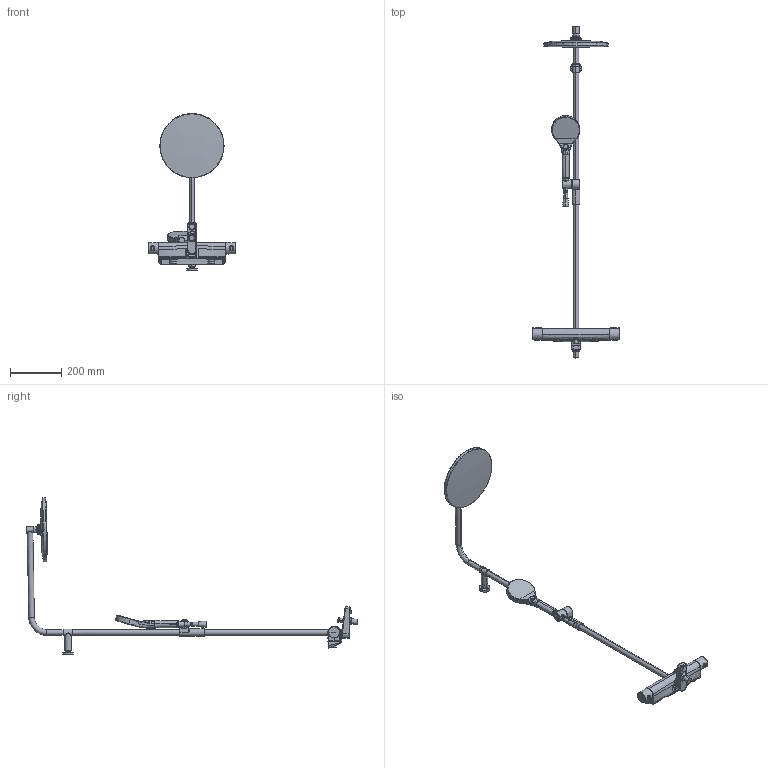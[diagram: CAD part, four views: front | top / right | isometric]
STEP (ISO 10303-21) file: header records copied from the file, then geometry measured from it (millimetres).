
FILE_DESCRIPTION (( 'STEP AP203' ), '1' );
FILE_NAME ('7152N(2023).STEP', '2023-07-18T09:52:52', ( '' ), ( '' ), 'SwSTEP 2.0', 'SolidWorks 2016', '' );
FILE_SCHEMA (( 'CONFIG_CONTROL_DESIGN' ));
Products named in the file (1): 7152N(2023)
Bounding box: 342.65 x 1292.62 x 611.02 mm (x, y, z)
Volume: 3325240 mm3; surface area: 550435.2 mm2
Topology: 27 solids, 27 shells, 950 faces, 2245 edges, 1322 vertices
Faces by surface type: bspline 550, cylinder 139, plane 115, cone 87, torus 47, sphere 12
Entity records: 66682 total; most frequent: CARTESIAN_POINT 49187, ORIENTED_EDGE 4424, DIRECTION 2422, EDGE_CURVE 2212, VERTEX_POINT 1323, B_SPLINE_CURVE_WITH_KNOTS 1143, AXIS2_PLACEMENT_3D 1039, EDGE_LOOP 965
